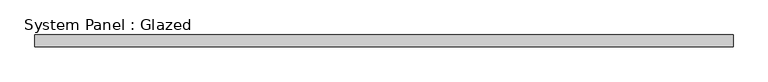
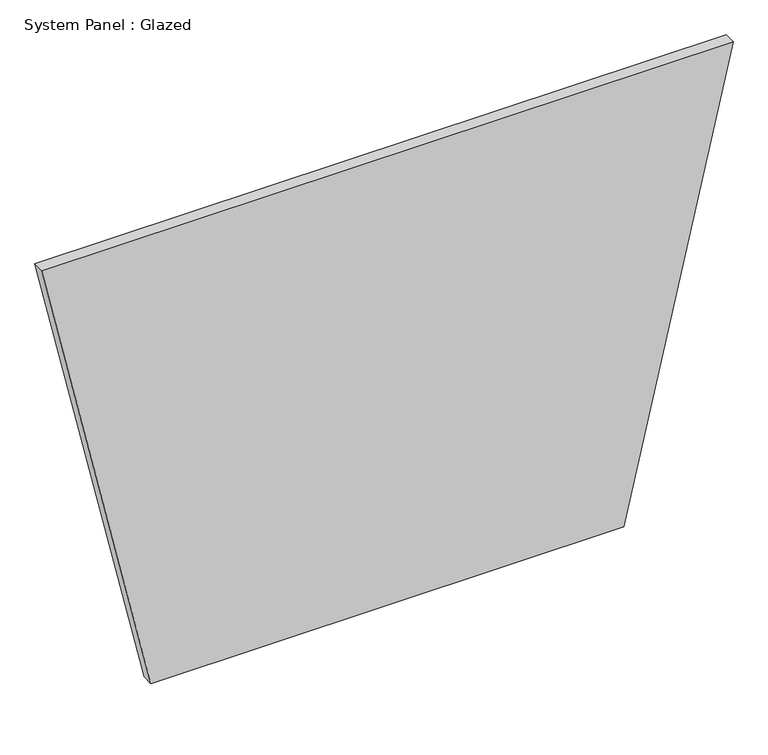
"""IFC4 building model written with IfcOpenShell, lengths in millimetres: plate geometry, System Panel : Glazed."""

from ifc_helpers import new_model, si_unit, frame, origin, place, context, project, spatial, polyline, outline, extrude, source, transform, mapped, element, save


def system_panel_glazed_7985a11f(model_context):
    return source(origin(), model_context, "Body", "SweptSolid", [
        extrude(outline(polyline([(0.0, -517.9591915), (0.0, 517.9591915), (1039.6625925, 757.048994), (1039.6625925, -757.048994), (0.0, -517.9591915)])), frame((0.0, -44.45, 0.0), z_axis=(0.0, 1.0, 0.0), x_axis=(0.0, 0.0, 1.0)), (0.0, 0.0, 1.0), 25.4),
    ])


if __name__ == "__main__":
    model = new_model("IFC4")
    model_context = context("Model", 3, world=origin())
    ifc_project = project(units=[si_unit("LENGTHUNIT", "METRE", prefix="MILLI")], contexts=[model_context])
    site = spatial("IfcSite", under=ifc_project)
    building = spatial("IfcBuilding", under=site)
    placement = place(None, origin())
    system_panel_glazed_shape = system_panel_glazed_7985a11f(model_context)
    element("IfcPlate", 1, ObjectType="System Panel : Glazed", at=placement, inside=building, context=model_context, shape_type="MappedRepresentation", body=[
        mapped(system_panel_glazed_shape, transform((0.0, 0.0, 0.0), x_axis=(1.0, 0.0, 0.0), y_axis=(0.0, 1.0, 0.0), z_axis=(0.0, 0.0, 1.0))),
    ])
    save(model, "model.ifc")
